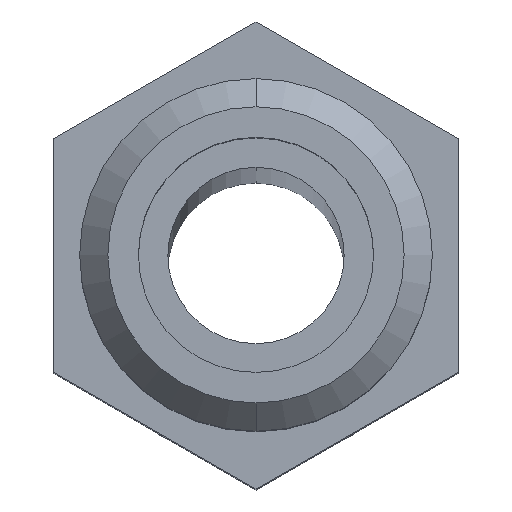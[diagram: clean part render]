
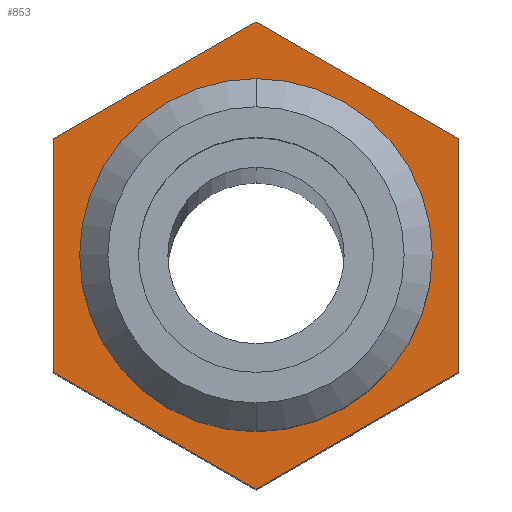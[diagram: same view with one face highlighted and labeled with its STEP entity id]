
A CAD part, top view. The second image highlights one B-rep face of the part: STEP entity #853.
In plain terms, the highlighted planar face has unit normal (0, 0, 1).
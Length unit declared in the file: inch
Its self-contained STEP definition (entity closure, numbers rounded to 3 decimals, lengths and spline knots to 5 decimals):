
#12 = EDGE_LOOP ( 'NONE', ( #246, #800 ) ) ;
#29 = CIRCLE ( 'NONE', #724, 0.1875 ) ;
#37 = CARTESIAN_POINT ( 'NONE',  ( 0.215, 0.12413, 0. ) ) ;
#77 = DIRECTION ( 'NONE',  ( 0., 1., 0. ) ) ;
#84 = VERTEX_POINT ( 'NONE', #136 ) ;
#86 = CARTESIAN_POINT ( 'NONE',  ( 0., 0., 0. ) ) ;
#103 = DIRECTION ( 'NONE',  ( -0.866, -0.5, 0. ) ) ;
#116 = ORIENTED_EDGE ( 'NONE', *, *, #325, .T. ) ;
#124 = EDGE_CURVE ( 'NONE', #448, #84, #859, .T. ) ;
#125 = CARTESIAN_POINT ( 'NONE',  ( 0., 0.1875, 0. ) ) ;
#134 = CARTESIAN_POINT ( 'NONE',  ( 0., 0.1875, 0. ) ) ;
#136 = CARTESIAN_POINT ( 'NONE',  ( 0.215, -0.12413, 0. ) ) ;
#137 = DIRECTION ( 'NONE',  ( 0., 1., 0. ) ) ;
#144 = VERTEX_POINT ( 'NONE', #236 ) ;
#169 = EDGE_CURVE ( 'NONE', #561, #440, #379, .T. ) ;
#189 = CARTESIAN_POINT ( 'NONE',  ( -0.215, 0.12413, 0. ) ) ;
#200 = PLANE ( 'NONE',  #521 ) ;
#217 = CARTESIAN_POINT ( 'NONE',  ( 0., -0.24826, 0. ) ) ;
#219 = ORIENTED_EDGE ( 'NONE', *, *, #851, .T. ) ;
#236 = CARTESIAN_POINT ( 'NONE',  ( 0., -0.1875, 0. ) ) ;
#246 = ORIENTED_EDGE ( 'NONE', *, *, #426, .T. ) ;
#254 = VECTOR ( 'NONE', #103, 39.37008 ) ;
#274 = CARTESIAN_POINT ( 'NONE',  ( -0.215, -0.12413, 0. ) ) ;
#275 = LINE ( 'NONE', #274, #860 ) ;
#298 = CARTESIAN_POINT ( 'NONE',  ( -0.215, 0.12413, 0. ) ) ;
#325 = EDGE_CURVE ( 'NONE', #638, #561, #726, .T. ) ;
#327 = CARTESIAN_POINT ( 'NONE',  ( 0., 0.24826, 0. ) ) ;
#354 = ORIENTED_EDGE ( 'NONE', *, *, #729, .T. ) ;
#355 = FACE_BOUND ( 'NONE', #12, .T. ) ;
#377 = AXIS2_PLACEMENT_3D ( 'NONE', #86, #500, #137 ) ;
#379 = LINE ( 'NONE', #655, #254 ) ;
#410 = CARTESIAN_POINT ( 'NONE',  ( 0.215, 0.12413, 0. ) ) ;
#417 = CARTESIAN_POINT ( 'NONE',  ( 0.215, -0.12413, 0. ) ) ;
#426 = EDGE_CURVE ( 'NONE', #722, #144, #29, .T. ) ;
#440 = VERTEX_POINT ( 'NONE', #298 ) ;
#441 = CARTESIAN_POINT ( 'NONE',  ( 0., 0., 0. ) ) ;
#448 = VERTEX_POINT ( 'NONE', #217 ) ;
#476 = EDGE_LOOP ( 'NONE', ( #567, #354, #219, #554, #602, #116 ) ) ;
#483 = DIRECTION ( 'NONE',  ( 0., -1., 0. ) ) ;
#486 = EDGE_CURVE ( 'NONE', #144, #722, #767, .T. ) ;
#492 = VECTOR ( 'NONE', #759, 39.37008 ) ;
#500 = DIRECTION ( 'NONE',  ( 0., 0., -1. ) ) ;
#503 = CARTESIAN_POINT ( 'NONE',  ( 0., -0.24826, 0. ) ) ;
#521 = AXIS2_PLACEMENT_3D ( 'NONE', #134, #558, #918 ) ;
#553 = DIRECTION ( 'NONE',  ( 0.866, -0.5, 0. ) ) ;
#554 = ORIENTED_EDGE ( 'NONE', *, *, #124, .T. ) ;
#558 = DIRECTION ( 'NONE',  ( 0., 0., 1. ) ) ;
#561 = VERTEX_POINT ( 'NONE', #327 ) ;
#567 = ORIENTED_EDGE ( 'NONE', *, *, #169, .T. ) ;
#572 = VECTOR ( 'NONE', #483, 39.37008 ) ;
#590 = VERTEX_POINT ( 'NONE', #608 ) ;
#602 = ORIENTED_EDGE ( 'NONE', *, *, #671, .T. ) ;
#608 = CARTESIAN_POINT ( 'NONE',  ( -0.215, -0.12413, 0. ) ) ;
#638 = VERTEX_POINT ( 'NONE', #37 ) ;
#655 = CARTESIAN_POINT ( 'NONE',  ( 0., 0.24826, 0. ) ) ;
#671 = EDGE_CURVE ( 'NONE', #84, #638, #693, .T. ) ;
#684 = DIRECTION ( 'NONE',  ( -0.866, 0.5, 0. ) ) ;
#693 = LINE ( 'NONE', #417, #492 ) ;
#718 = DIRECTION ( 'NONE',  ( 0.866, 0.5, 0. ) ) ;
#722 = VERTEX_POINT ( 'NONE', #125 ) ;
#724 = AXIS2_PLACEMENT_3D ( 'NONE', #441, #798, #77 ) ;
#726 = LINE ( 'NONE', #410, #833 ) ;
#729 = EDGE_CURVE ( 'NONE', #440, #590, #830, .T. ) ;
#759 = DIRECTION ( 'NONE',  ( 0., 1., 0. ) ) ;
#767 = CIRCLE ( 'NONE', #377, 0.1875 ) ;
#798 = DIRECTION ( 'NONE',  ( 0., 0., -1. ) ) ;
#800 = ORIENTED_EDGE ( 'NONE', *, *, #486, .T. ) ;
#830 = LINE ( 'NONE', #189, #572 ) ;
#833 = VECTOR ( 'NONE', #684, 39.37008 ) ;
#841 = FACE_OUTER_BOUND ( 'NONE', #476, .T. ) ;
#851 = EDGE_CURVE ( 'NONE', #590, #448, #275, .T. ) ;
#853 = ADVANCED_FACE ( 'NONE', ( #355, #841 ), #200, .T. ) ;
#859 = LINE ( 'NONE', #503, #898 ) ;
#860 = VECTOR ( 'NONE', #553, 39.37008 ) ;
#898 = VECTOR ( 'NONE', #718, 39.37008 ) ;
#918 = DIRECTION ( 'NONE',  ( 0., -1., 0. ) ) ;
